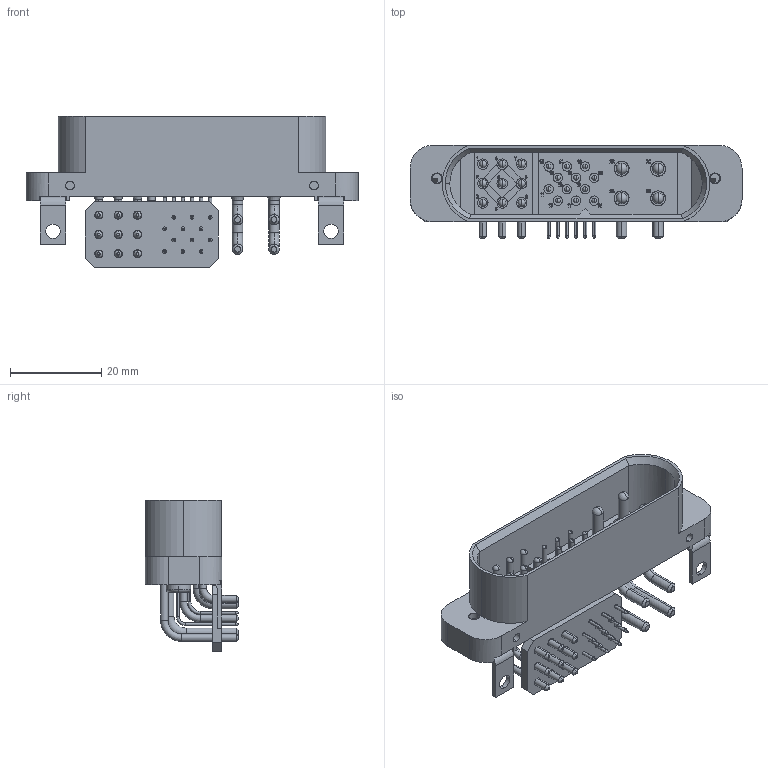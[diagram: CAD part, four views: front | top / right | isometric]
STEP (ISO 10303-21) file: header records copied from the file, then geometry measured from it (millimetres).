
FILE_DESCRIPTION (( 'STEP AP203' ), '1' );
FILE_NAME ('GFSH435M4B.STEP', '2024-10-16T05:45:06', ( '' ), ( '' ), 'SwSTEP 2.0', 'SolidWorks 2021', '' );
FILE_SCHEMA (( 'CONFIG_CONTROL_DESIGN' ));
Length unit declared in the file: millimetre
Products named in the file (1): GFSH435M4B
Bounding box: 72.86 x 20.49 x 33.14 mm (x, y, z)
Volume: 10294.7 mm3; surface area: 11523.4 mm2
Topology: 1 solids, 3 shells, 2587 faces, 6845 edges, 4449 vertices
Faces by surface type: plane 1184, bspline 617, cylinder 504, cone 178, torus 54, sphere 50
Entity records: 123205 total; most frequent: CARTESIAN_POINT 62696, ORIENTED_EDGE 13590, DIRECTION 10717, EDGE_CURVE 6795, VERTEX_POINT 4449, VECTOR 3869, LINE 3869, AXIS2_PLACEMENT_3D 3424
